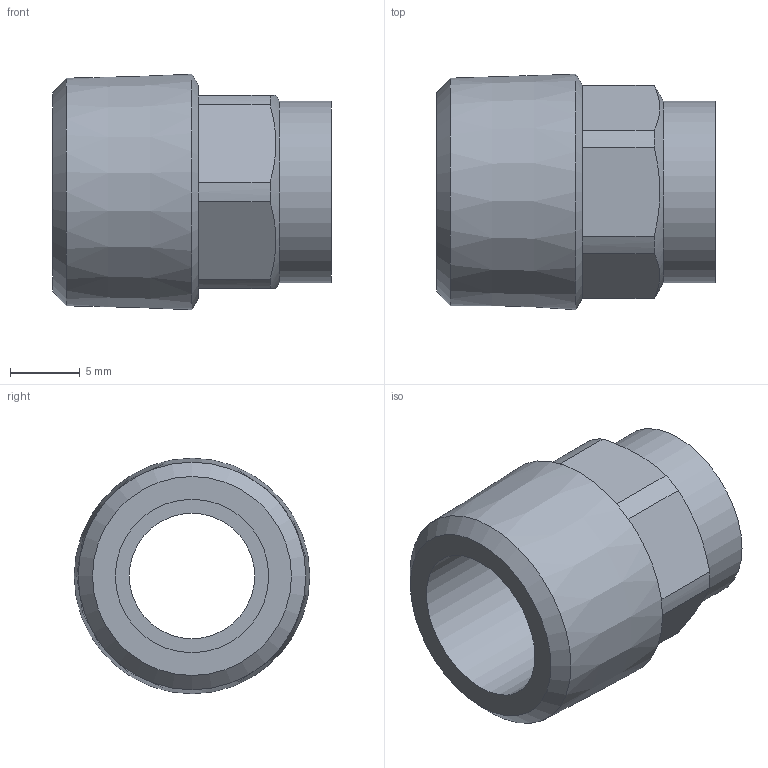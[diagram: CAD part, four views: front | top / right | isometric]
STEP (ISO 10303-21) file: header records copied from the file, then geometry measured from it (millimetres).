
FILE_DESCRIPTION((''),'2;1');
FILE_NAME('\\Lg50001\Groups\SANHA Legnica\Engineering\Public\RYSUNKI\SANHA POLSKA\4243G\step\14243_10-38(2).stp','2008-08-20T10:00:47',('pajchrowski'),(''),'Autodesk Inventor 2008','Autodesk Inventor 2008','');
FILE_SCHEMA(('AUTOMOTIVE_DESIGN { 1 0 10303 214 1 1 1 1 }'));
Length unit declared in the file: millimetre
Products named in the file (1): 14243_10-38(2)
Bounding box: 20 x 16.89 x 16.89 mm (x, y, z)
Volume: 1958.3 mm3; surface area: 1866.1 mm2
Topology: 1 solids, 1 shells, 25 faces, 58 edges, 37 vertices
Faces by surface type: plane 16, cylinder 5, cone 4
Full cylindrical faces by diameter (mm): 9 x1, 10.11 x1, 11 x1, 13 x1, 15.3 x1
Entity records: 686 total; most frequent: CARTESIAN_POINT 122, DIRECTION 118, ORIENTED_EDGE 96, AXIS2_PLACEMENT_3D 50, EDGE_CURVE 48, EDGE_LOOP 38, VERTEX_POINT 36, FACE_OUTER_BOUND 25
